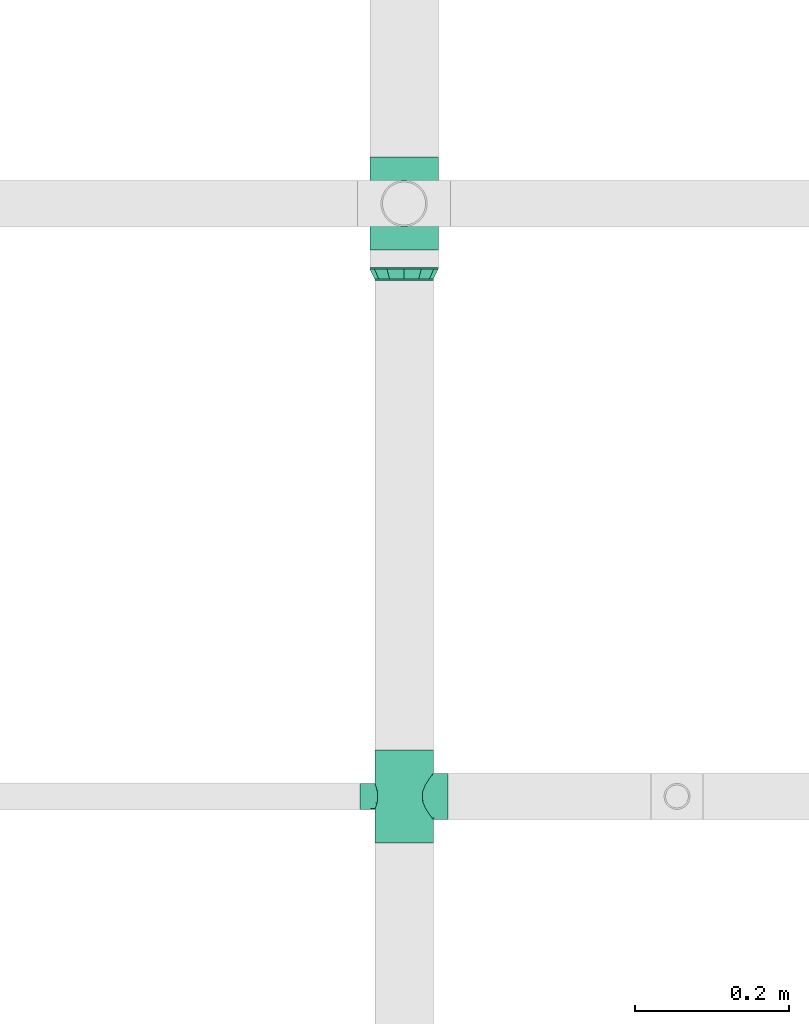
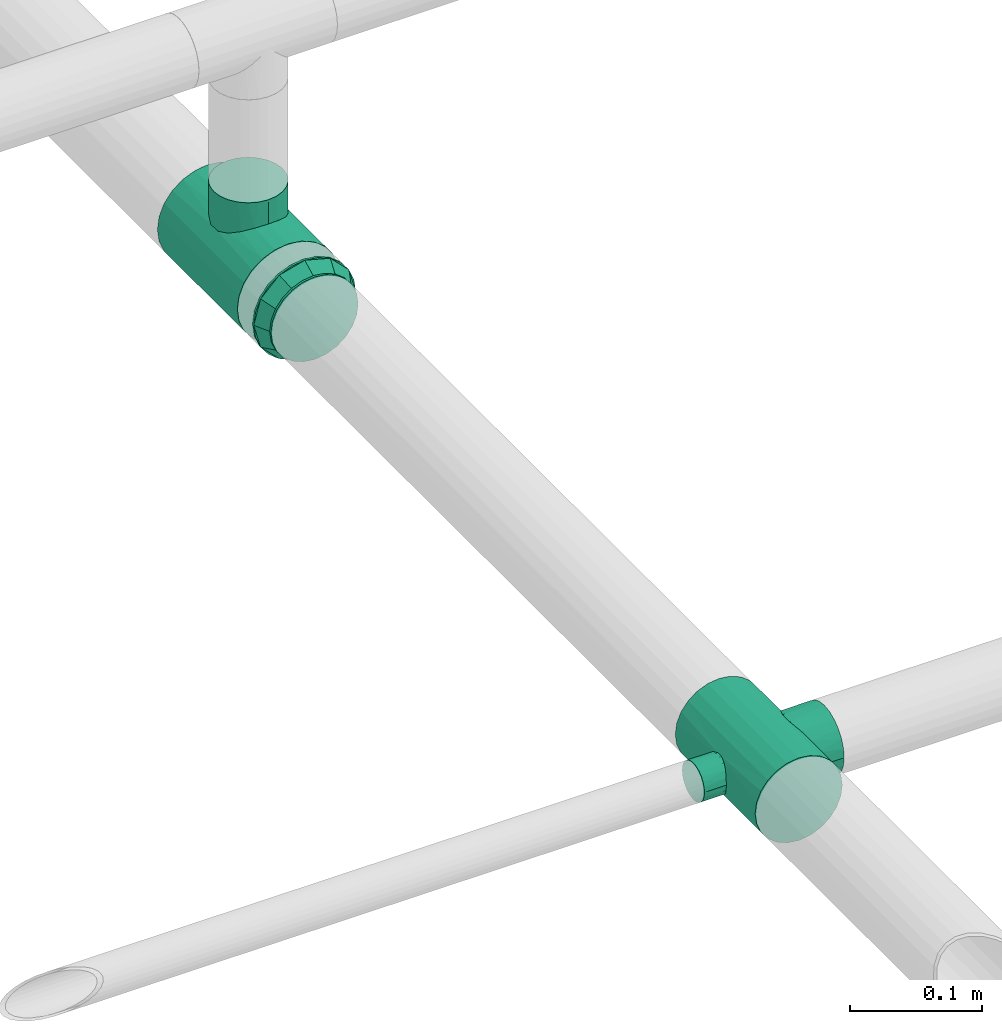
# One storey, part 39 of 45: 3 flow fittings.
"""IFC2X3 building model written with IfcOpenShell, lengths in millimetres."""

import ifcopenshell
import ifcopenshell.guid

model = None  # the IFC model being written
_history = None  # IfcOwnerHistory: only IFC2X3 demands one
_inside = {}  # id of a spatial element -> (the spatial element, [elements in it])
_under = {}  # id of a project, library or spatial element -> (it, [spatial elements below it])
_declared = {}  # id of a project -> (the project, [libraries it declares])
_typed = {}  # id of a type object -> (the type object, [elements of that type])
_made_of = {}  # id of a material, layer set ... -> (it, [elements and type objects made of it])


def new_model(schema):
    """Start an empty IFC model of exactly this schema.

    Asked for "IFC4X3", IfcOpenShell would pick the latest addendum, in which some entities
    have other attributes; the version numbers below select the first issue.
    IFC2X3 requires an IfcOwnerHistory on every rooted entity: one is made here for all.
    """
    global model, _history
    if schema == "IFC4X3":
        model = ifcopenshell.file(schema_version=(4, 3, 0, 0))
    else:
        model = ifcopenshell.file(schema=schema)
    _inside.clear()
    _under.clear()
    _declared.clear()
    _typed.clear()
    _made_of.clear()
    _history = None
    if model.schema == "IFC2X3":
        org = make("IfcOrganization", Name="unknown")
        user = make(
            "IfcPersonAndOrganization",
            ThePerson=make("IfcPerson", FamilyName="unknown"),
            TheOrganization=org,
        )
        app = make(
            "IfcApplication",
            ApplicationDeveloper=org,
            Version="unknown",
            ApplicationFullName="unknown",
            ApplicationIdentifier="unknown",
        )
        _history = make(
            "IfcOwnerHistory",
            OwningUser=user,
            OwningApplication=app,
            ChangeAction="ADDED",
            CreationDate=0,
        )
    return model


def make(cls, **values):
    """One entity of the class cls with the attributes given. An attribute that is None is left unset."""
    return model.create_entity(
        cls, **{name: value for name, value in values.items() if value is not None}
    )


def entity(cls, *values):
    """Any entity or typed value of the class cls, its attributes in the order of the schema. None: left unset."""
    e = model.create_entity(cls)
    for i, value in enumerate(values):
        if value is not None:
            e[i] = value
    return e


def rooted(cls, **values):
    """An entity with a GlobalId (a new one), such as an element, a storey or a relation."""
    return make(cls, GlobalId=ifcopenshell.guid.new(), OwnerHistory=_history, **values)


def si_unit(unit_type, name, prefix=None):
    """IfcSIUnit, for example si_unit("LENGTHUNIT", "METRE", prefix="MILLI")."""
    return make("IfcSIUnit", UnitType=unit_type, Prefix=prefix, Name=name)


def converted_unit(unit_type, name, factor, base, dimensions=None, offset=None):
    """IfcConversionBasedUnit, such as the inch: factor (a typed value) times the base unit."""
    return make(
        "IfcConversionBasedUnit"
        if offset is None
        else "IfcConversionBasedUnitWithOffset",
        ConversionOffset=offset,
        Dimensions=None
        if dimensions is None
        else entity("IfcDimensionalExponents", *dimensions),
        UnitType=unit_type,
        Name=name,
        ConversionFactor=make(
            "IfcMeasureWithUnit", ValueComponent=factor, UnitComponent=base
        ),
    )


def derived_unit(unit_type, elements):
    """IfcDerivedUnit: a product of units, each with its exponent."""
    return make(
        "IfcDerivedUnit",
        Elements=[
            make("IfcDerivedUnitElement", Unit=unit, Exponent=power)
            for unit, power in elements
        ],
        UnitType=unit_type,
    )


def assignment(units):
    """IfcUnitAssignment: the units of a project."""
    return None if units is None else make("IfcUnitAssignment", Units=units)


def point(xyz):
    """IfcCartesianPoint."""
    return None if xyz is None else make("IfcCartesianPoint", Coordinates=xyz)


def direction(xyz):
    """IfcDirection."""
    return None if xyz is None else make("IfcDirection", DirectionRatios=xyz)


def frame(location, z_axis=None, x_axis=None):
    """IfcAxis2Placement3D, a coordinate frame: its origin and axes. An axis left out is left unset."""
    return make(
        "IfcAxis2Placement3D",
        Location=point(location),
        Axis=direction(z_axis),
        RefDirection=direction(x_axis),
    )


def origin_with_axes():
    """The frame at (0, 0, 0) with the z axis (0, 0, 1) and the x axis (1, 0, 0) written out."""
    return frame((0.0, 0.0, 0.0), z_axis=(0.0, 0.0, 1.0), x_axis=(1.0, 0.0, 0.0))


def place(relative_to, where):
    """IfcLocalPlacement: puts the frame where relative to a parent placement (None: the world)."""
    return make(
        "IfcLocalPlacement", PlacementRelTo=relative_to, RelativePlacement=where
    )


def context(
    kind, dimensions, precision=None, world=None, true_north=None, identifier=None
):
    """IfcGeometricRepresentationContext, for example the 3D "Model" context."""
    return make(
        "IfcGeometricRepresentationContext",
        ContextIdentifier=identifier,
        ContextType=kind,
        CoordinateSpaceDimension=dimensions,
        Precision=precision,
        WorldCoordinateSystem=world,
        TrueNorth=true_north,
    )


def subcontext(parent, identifier, kind, view, scale=None):
    """IfcGeometricRepresentationSubContext, for example "Body" below "Model"."""
    return make(
        "IfcGeometricRepresentationSubContext",
        ContextIdentifier=identifier,
        ContextType=kind,
        ParentContext=parent,
        TargetScale=scale,
        TargetView=view,
    )


def project(units=None, contexts=None):
    """IfcProject with its units and contexts."""
    return rooted(
        "IfcProject",
        Name="project",
        RepresentationContexts=contexts,
        UnitsInContext=assignment(units),
    )


def spatial(cls, under=None, at=None, **own):
    """A site, building, storey or space (cls), placed at a placement, below another one or the project."""
    s = rooted(cls, ObjectPlacement=at, **own)
    if under is not None:
        _under.setdefault(under.id(), (under, []))[1].append(s)
    return s


def faces_of(points, faces, orient=None, outer=None):
    """IfcFace entities. A face is a list of loops; a loop is a list of indices into points, from 0.

    orient and outer hold one flag for each loop. By default every Orientation is true, the
    first loop of a face is its IfcFaceOuterBound and the others are IfcFaceBound.
    """
    made = []
    for i, loops in enumerate(faces):
        bounds = []
        for j, loop in enumerate(loops):
            is_outer = j == 0 if outer is None else outer[i][j]
            bounds.append(
                make(
                    "IfcFaceOuterBound" if is_outer else "IfcFaceBound",
                    Bound=make("IfcPolyLoop", Polygon=[points[k] for k in loop]),
                    Orientation=True if orient is None else orient[i][j],
                )
            )
        made.append(make("IfcFace", Bounds=bounds))
    return made


def open_shell(faces, orient=None, outer=None):
    """The faces of one IfcOpenShell. surface_model builds it on its shared points."""
    return ("IfcOpenShell", faces, orient, outer)


def surface_model(cls, points, shells):
    """IfcFaceBasedSurfaceModel or IfcShellBasedSurfaceModel (cls): surfaces that need not close."""
    shared = [point(p) for p in points]
    made = [make(c, CfsFaces=faces_of(shared, fs, o, b)) for c, fs, o, b in shells]
    if cls == "IfcFaceBasedSurfaceModel":
        return make(cls, FbsmFaces=made)
    return make(cls, SbsmBoundary=made)


def shape(context_of_items, identifier, shape_type, items):
    """IfcShapeRepresentation: the items that make up one representation, for example the "Body"."""
    return make(
        "IfcShapeRepresentation",
        ContextOfItems=context_of_items,
        RepresentationIdentifier=identifier,
        RepresentationType=shape_type,
        Items=items,
    )


def source(mapping_origin, context_of_items, identifier, shape_type, items):
    """IfcRepresentationMap: a shape defined once, which mapped items show again and again."""
    return make(
        "IfcRepresentationMap",
        MappingOrigin=mapping_origin,
        MappedRepresentation=shape(context_of_items, identifier, shape_type, items),
    )


def transform(
    local_origin,
    x_axis=None,
    y_axis=None,
    z_axis=None,
    scale=None,
    scale2=None,
    scale3=None,
    uniform=True,
):
    """IfcCartesianTransformationOperator3D, or its non-uniform kind. x_axis, y_axis, z_axis: its Axis1, 2, 3."""
    if uniform:
        return make(
            "IfcCartesianTransformationOperator3D",
            Axis1=direction(x_axis),
            Axis2=direction(y_axis),
            LocalOrigin=point(local_origin),
            Scale=scale,
            Axis3=direction(z_axis),
        )
    return make(
        "IfcCartesianTransformationOperator3DnonUniform",
        Axis1=direction(x_axis),
        Axis2=direction(y_axis),
        LocalOrigin=point(local_origin),
        Scale=scale,
        Axis3=direction(z_axis),
        Scale2=scale2,
        Scale3=scale3,
    )


def mapped(mapping_source, mapping_target):
    """IfcMappedItem: shows the shape of a source again, moved by a transform."""
    return make(
        "IfcMappedItem", MappingSource=mapping_source, MappingTarget=mapping_target
    )


def made_of(thing, what):
    """Note that an element or type object is made of a material, layer set ...; save() writes the relation."""
    if what is not None:
        _made_of.setdefault(what.id(), (what, []))[1].append(thing)
    return thing


def type_object(cls, material=None, **own):
    """A type object (cls), such as IfcWallType, which elements share."""
    return made_of(rooted(cls, **own), material)


def element(
    cls,
    number,
    at=None,
    inside=None,
    cuts=None,
    type_object=None,
    material=None,
    context=None,
    identifier="Body",
    shape_type=None,
    held_by="IfcProductDefinitionShape",
    body=None,
    shapes=None,
    **own,
):
    """One element of the class cls, such as IfcWall. Its Tag is "e" and its number.

    at: its placement. inside: the storey or other place that contains it. cuts: it is an
    opening in that element (IfcRelVoidsElement). A single representation is given by context,
    identifier, shape_type and body (its items); several are given by shapes. held_by: the class
    of the entity that holds the representations. save() writes the other relations.
    """
    e = rooted(cls, Tag="e%d" % number, ObjectPlacement=at, **own)
    if body is not None:
        shapes = [shape(context, identifier, shape_type, body)]
    if shapes is not None:
        e.Representation = make(held_by, Representations=shapes)
    if inside is not None:
        _inside.setdefault(inside.id(), (inside, []))[1].append(e)
    if cuts is not None:
        rooted(
            "IfcRelVoidsElement", RelatingBuildingElement=cuts, RelatedOpeningElement=e
        )
    if type_object is not None:
        _typed.setdefault(type_object.id(), (type_object, []))[1].append(e)
    return made_of(e, material)


def aggregate(whole, parts):
    """IfcRelAggregates: a whole, such as a stair, and the parts it consists of."""
    return rooted("IfcRelAggregates", RelatingObject=whole, RelatedObjects=parts)


def save(model, path):
    """Write the relations noted so far, then the file.

    IfcRelAggregates (storeys below a building ...), IfcRelContainedInSpatialStructure (elements
    in a storey), IfcRelDefinesByType, IfcRelAssociatesMaterial and IfcRelDeclares: one each for
    every whole, place, type object, material and project.
    """
    for whole, parts in _under.values():
        aggregate(whole, parts)
    for where, things in _inside.values():
        rooted(
            "IfcRelContainedInSpatialStructure",
            RelatedElements=things,
            RelatingStructure=where,
        )
    for kind, things in _typed.values():
        rooted("IfcRelDefinesByType", RelatedObjects=things, RelatingType=kind)
    for what, things in _made_of.values():
        rooted("IfcRelAssociatesMaterial", RelatedObjects=things, RelatingMaterial=what)
    for by, libraries in _declared.values():
        rooted("IfcRelDeclares", RelatingContext=by, RelatedDefinitions=libraries)
    model.write(path)


model = new_model("IFC2X3")

# Units and contexts
model_context = context("Model", 3, precision=0.01, world=frame((0.0, 4.29681676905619e-09, 0.0)), true_north=direction((4.01073788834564e-13, 1.0)))
plan_context = context("Plan", 3, precision=0.01, world=frame((0.0, 4.29681676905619e-09, 0.0)), true_north=direction((4.01073788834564e-13, 1.0)))
body_context = subcontext(model_context, "Body", "Model", "MODEL_VIEW")
ifc_project = project(units=[converted_unit("PLANEANGLEUNIT", "DEGREE", entity("IfcPositiveLengthMeasure", 0.0174532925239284), si_unit("PLANEANGLEUNIT", "RADIAN"), dimensions=[0, 0, 0, 0, 0, 0, 0]), si_unit("AREAUNIT", "SQUARE_METRE"), si_unit("LENGTHUNIT", "METRE", prefix="MILLI"), si_unit("MASSUNIT", "GRAM", prefix="KILO"), si_unit("POWERUNIT", "WATT"), si_unit("PRESSUREUNIT", "PASCAL", prefix="KILO"), si_unit("FORCEUNIT", "NEWTON", prefix="KILO"), si_unit("ELECTRICVOLTAGEUNIT", "VOLT"), si_unit("ELECTRICCURRENTUNIT", "AMPERE"), si_unit("THERMODYNAMICTEMPERATUREUNIT", "DEGREE_CELSIUS"), si_unit("TIMEUNIT", "SECOND"), si_unit("VOLUMEUNIT", "CUBIC_METRE"), derived_unit("LINEARVELOCITYUNIT", [(si_unit("LENGTHUNIT", "METRE"), 1), (si_unit("TIMEUNIT", "SECOND"), -1)]), derived_unit("VOLUMETRICFLOWRATEUNIT", [(si_unit("VOLUMEUNIT", "CUBIC_METRE"), 1), (si_unit("TIMEUNIT", "SECOND"), -1)]), derived_unit("THERMALTRANSMITTANCEUNIT", [(si_unit("POWERUNIT", "WATT"), 1), (si_unit("THERMODYNAMICTEMPERATUREUNIT", "KELVIN"), -1), (si_unit("AREAUNIT", "SQUARE_METRE"), -1)]), derived_unit("SOUNDPRESSUREUNIT", [(si_unit("PRESSUREUNIT", "PASCAL"), 1)])], contexts=[model_context, plan_context])

# Site, building, storey
site_placement = place(None, frame((0.0, -4.29681676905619e-09, 0.0), z_axis=(0.0, 0.0, 1.0), x_axis=(1.0, 0.0, 0.0)))
site = spatial("IfcSite", under=ifc_project, at=site_placement, CompositionType="ELEMENT")
building_placement = place(site_placement, frame((0.0, 4.29681676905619e-09, 0.0), z_axis=(0.0, 0.0, 1.0), x_axis=(1.0, 0.0, 0.0)))
building = spatial("IfcBuilding", under=site, at=building_placement, Name="mc-building", CompositionType="ELEMENT")
storey_placement = place(building_placement, frame((0.0, 0.0, 210200.0), z_axis=(0.0, 0.0, 1.0), x_axis=(1.0, 0.0, 0.0)))
storey = spatial("IfcBuildingStorey", under=building, at=storey_placement, Name="Nivå F - 0,7 m", CompositionType="ELEMENT", Elevation=210200.0)

# Flow fittings
pipe_fitting_type_1 = type_object("IfcPipeFittingType", Name="magi_pipe_fe_reducer_centric_short_001", PredefinedType="TRANSITION")
shared_shape_1 = source(origin_with_axes(), body_context, "Body", "SurfaceModel", [
    surface_model("IfcShellBasedSurfaceModel", [(0.0, 38.53813, 22.25), (0.0, 0.0, -44.5), (0.0, -44.5, 0.0), (0.0, -22.25, -38.53813), (0.0, 22.25, -38.53813), (14.8, 9.86101, -36.80177), (14.8, 19.05, -32.99557), (14.8, 26.94077, -26.94077), (14.8, -19.05, -32.99557), (14.8, 36.80177, -9.86101), (14.8, 32.99557, -19.05), (14.8, -38.1, 0.0), (14.8, 0.0, -38.1), (14.8, -9.86101, -36.80177), (14.8, -26.94077, -26.94077), (14.8, -32.99557, -19.05), (14.8, -36.80177, -9.86101), (14.8, 38.1, 0.0), (14.8, 36.80177, 9.86101), (14.8, 32.99557, 19.05), (14.8, 26.94077, 26.94077), (14.8, 19.05, 32.99557), (14.8, 9.86101, 36.80177), (14.8, 0.0, 38.1), (14.8, -32.99557, 19.05), (14.8, -36.80177, 9.86101), (14.8, -9.86101, 36.80177), (14.8, -19.05, 32.99557), (14.8, -26.94077, 26.94077), (12.8, 0.0, 38.1), (12.8, 9.86101, 36.80177), (12.8, 19.05, 32.99557), (12.8, -32.99557, -19.05), (12.8, 26.94077, 26.94077), (12.8, 32.99557, 19.05), (12.8, 36.80177, 9.86101), (12.8, -38.1, 0.0), (12.8, -19.05, 32.99557), (12.8, -32.99557, 19.05), (12.8, -26.94077, 26.94077), (12.8, -9.86101, 36.80177), (12.8, -36.80177, 9.86101), (12.8, -19.05, -32.99557), (12.8, 36.80177, -9.86101), (12.8, 9.86101, -36.80177), (12.8, 26.94077, -26.94077), (12.8, 32.99557, -19.05), (12.8, 19.05, -32.99557), (12.8, 0.0, -38.1), (12.8, -26.94077, -26.94077), (12.8, -36.80177, -9.86101), (12.8, -9.86101, -36.80177), (12.8, 38.1, 0.0), (-2.0, 0.0, 44.5), (-2.0, 11.51745, 42.9837), (-2.0, 22.25, 38.53813), (-2.0, 31.46625, 31.46625), (-2.0, 38.53813, 22.25), (-2.0, 42.9837, 11.51745), (-2.0, -42.9837, 11.51745), (-2.0, -11.51745, 42.9837), (-2.0, -31.46625, 31.46625), (-2.0, -22.25, 38.53813), (-2.0, -38.53813, 22.25), (-2.0, -42.9837, -11.51745), (-2.0, -44.5, 0.0), (-2.0, 11.51745, -42.9837), (-2.0, 44.5, 0.0), (-2.0, 42.9837, -11.51745), (-2.0, 38.53813, -22.25), (-2.0, 31.46625, -31.46625), (-2.0, 22.25, -38.53813), (-2.0, 0.0, -44.5), (-2.0, -31.46625, -31.46625), (-2.0, -38.53813, -22.25), (-2.0, -22.25, -38.53813), (-2.0, -11.51745, -42.9837), (0.0, -42.9837, -11.51745), (0.0, 11.51745, -42.9837), (0.0, 42.9837, -11.51745), (0.0, 31.46625, -31.46625), (0.0, 44.5, 0.0), (0.0, 38.53813, -22.25), (0.0, -11.51745, -42.9837), (0.0, -31.46625, -31.46625), (0.0, -38.53813, -22.25), (0.0, 42.9837, 11.51745), (0.0, 31.46625, 31.46625), (0.0, -42.9837, 11.51745), (0.0, 22.25, 38.53813), (0.0, 11.51745, 42.9837), (0.0, 0.0, 44.5), (0.0, -31.46625, 31.46625), (0.0, -38.53813, 22.25), (0.0, -11.51745, 42.9837), (0.0, -22.25, 38.53813), (12.8, 26.02278, -26.02278), (0.0, 30.39407, -30.39407), (0.0, 41.51906, -11.125), (12.8, 35.54778, -9.525), (0.0, -40.63343, -14.43025), (12.8, -35.54778, -9.525), (0.0, 11.125, -41.51906), (12.8, 9.525, -35.54778), (0.0, -30.39407, -30.39407), (12.8, -26.02278, -26.02278), (0.0, -11.125, -41.51906), (12.8, -9.525, -35.54778), (12.8, -26.02278, 26.02278), (0.0, -30.39407, 30.39407), (0.0, -41.51906, 11.125), (12.8, -35.54778, 9.525), (0.0, 40.63343, 14.43025), (12.8, 35.54778, 9.525), (0.0, -11.125, 41.51906), (12.8, -9.525, 35.54778), (0.0, 30.39407, 30.39407), (12.8, 26.02278, 26.02278), (0.0, 11.125, 41.51906), (12.8, 9.525, 35.54778)], [open_shell([[[0, 1, 2]], [[2, 1, 3]], [[0, 4, 1]], [[5, 6, 7]], [[8, 5, 7]], [[8, 7, 9]], [[9, 7, 10]], [[8, 9, 11]], [[12, 8, 13]], [[12, 5, 8]], [[14, 11, 15]], [[11, 14, 8]], [[11, 16, 15]], [[9, 17, 18]], [[18, 19, 20]], [[18, 20, 21]], [[21, 22, 23]], [[21, 23, 18]], [[23, 11, 9]], [[11, 24, 25]], [[24, 11, 26]], [[24, 27, 28]], [[27, 24, 26]], [[11, 23, 26]], [[23, 9, 18]], [[29, 30, 31]], [[32, 29, 31]], [[33, 34, 35]], [[31, 33, 32]], [[36, 29, 32]], [[37, 38, 39]], [[37, 40, 29]], [[38, 36, 41]], [[36, 38, 37]], [[29, 36, 37]], [[35, 42, 33]], [[35, 43, 44]], [[45, 43, 46]], [[47, 44, 43]], [[47, 43, 45]], [[35, 44, 48]], [[49, 32, 33]], [[50, 36, 32]], [[42, 48, 51]], [[49, 33, 42]], [[35, 48, 42]], [[35, 52, 43]], [[50, 16, 36]], [[32, 15, 50]], [[8, 49, 42]], [[32, 49, 14]], [[13, 42, 51]], [[50, 15, 16]], [[16, 11, 36]], [[13, 8, 42]], [[14, 49, 8]], [[14, 15, 32]], [[12, 13, 51]], [[51, 48, 12]], [[44, 5, 48]], [[47, 6, 44]], [[10, 45, 46]], [[47, 45, 7]], [[9, 46, 43]], [[47, 7, 6]], [[6, 5, 44]], [[17, 9, 43]], [[10, 46, 9]], [[10, 7, 45]], [[52, 17, 43]], [[48, 5, 12]], [[35, 18, 52]], [[34, 19, 35]], [[21, 33, 31]], [[34, 33, 20]], [[22, 31, 30]], [[35, 19, 18]], [[18, 17, 52]], [[22, 21, 31]], [[20, 33, 21]], [[20, 19, 34]], [[23, 22, 30]], [[30, 29, 23]], [[40, 26, 29]], [[37, 27, 40]], [[24, 39, 38]], [[37, 39, 28]], [[25, 38, 41]], [[37, 28, 27]], [[27, 26, 40]], [[11, 25, 41]], [[24, 38, 25]], [[24, 28, 39]], [[36, 11, 41]], [[29, 26, 23]], [[53, 54, 55]], [[53, 55, 56]], [[56, 57, 58]], [[53, 56, 59]], [[59, 56, 58]], [[60, 61, 62]], [[60, 53, 61]], [[61, 59, 63]], [[53, 59, 61]], [[59, 64, 65]], [[59, 58, 64]], [[66, 67, 68]], [[66, 68, 69]], [[70, 71, 66]], [[70, 66, 69]], [[67, 66, 72]], [[64, 73, 74]], [[73, 64, 75]], [[75, 72, 76]], [[72, 75, 64]], [[64, 67, 72]], [[67, 64, 58]], [[4, 77, 78]], [[79, 4, 80]], [[79, 81, 4]], [[79, 80, 82]], [[77, 4, 81]], [[1, 3, 83]], [[3, 1, 77]], [[84, 77, 85]], [[77, 84, 3]], [[1, 78, 77]], [[81, 86, 77]], [[86, 0, 87]], [[88, 86, 87]], [[89, 90, 91]], [[89, 91, 87]], [[88, 87, 91]], [[88, 92, 93]], [[2, 77, 88]], [[92, 94, 95]], [[92, 88, 91]], [[94, 92, 91]], [[88, 77, 86]], [[64, 77, 65]], [[74, 85, 64]], [[3, 73, 75]], [[74, 73, 84]], [[83, 75, 76]], [[64, 85, 77]], [[77, 2, 65]], [[83, 3, 75]], [[84, 73, 3]], [[84, 85, 74]], [[1, 83, 76]], [[76, 72, 1]], [[66, 78, 72]], [[71, 4, 66]], [[82, 70, 69]], [[71, 70, 80]], [[79, 69, 68]], [[71, 80, 4]], [[4, 78, 66]], [[81, 79, 68]], [[82, 69, 79]], [[82, 80, 70]], [[67, 81, 68]], [[72, 78, 1]], [[58, 86, 67]], [[57, 0, 58]], [[89, 56, 55]], [[57, 56, 87]], [[90, 55, 54]], [[58, 0, 86]], [[86, 81, 67]], [[90, 89, 55]], [[87, 56, 89]], [[87, 0, 57]], [[91, 90, 54]], [[54, 53, 91]], [[60, 94, 53]], [[62, 95, 60]], [[93, 61, 63]], [[62, 61, 92]], [[88, 63, 59]], [[62, 92, 95]], [[95, 94, 60]], [[2, 88, 59]], [[93, 63, 88]], [[93, 92, 61]], [[65, 2, 59]], [[53, 94, 91]], [[52, 29, 37]], [[52, 37, 38]], [[31, 52, 34]], [[52, 31, 29]], [[38, 42, 52]], [[32, 42, 38]], [[42, 48, 52]], [[52, 47, 46]], [[52, 48, 47]], [[36, 32, 38]], [[91, 89, 0]], [[91, 0, 93]], [[91, 93, 95]], [[93, 0, 2]], [[4, 0, 82]], [[3, 85, 2]], [[0, 81, 82]], [[82, 46, 96]], [[47, 97, 96]], [[97, 47, 4]], [[98, 99, 46]], [[2, 100, 101]], [[81, 52, 99]], [[102, 4, 103]], [[96, 97, 82]], [[48, 1, 102]], [[100, 32, 101]], [[46, 82, 98]], [[48, 102, 103]], [[81, 99, 98]], [[4, 47, 103]], [[101, 36, 2]], [[104, 105, 32]], [[3, 105, 104]], [[106, 1, 107]], [[42, 106, 107]], [[3, 42, 105]], [[85, 32, 100]], [[1, 48, 107]], [[42, 3, 106]], [[32, 85, 104]], [[93, 38, 108]], [[37, 109, 108]], [[109, 37, 95]], [[110, 111, 38]], [[81, 112, 113]], [[2, 36, 111]], [[114, 95, 115]], [[108, 109, 93]], [[29, 91, 114]], [[112, 34, 113]], [[38, 93, 110]], [[29, 114, 115]], [[2, 111, 110]], [[95, 37, 115]], [[113, 52, 81]], [[116, 117, 34]], [[89, 117, 116]], [[118, 91, 119]], [[31, 118, 119]], [[89, 31, 117]], [[0, 34, 112]], [[91, 29, 119]], [[31, 89, 118]], [[34, 0, 116]]])]),
])
flow_fitting_1_placement = place(storey_placement, frame((324119.17326, 462314.88184, 2938.0), z_axis=(0.0, 0.0, 1.0), x_axis=(0.0, -1.0, 0.0)))
element("IfcFlowFitting", 1, at=flow_fitting_1_placement, inside=storey, type_object=pipe_fitting_type_1, Name="magi_pipe_fe_reducer_centric_short_001", context=body_context, shape_type="MappedRepresentation", body=[
    mapped(shared_shape_1, transform((0.0, 0.0, 0.0), scale=1.0)),
])
pipe_fitting_type_2 = type_object("IfcPipeFittingType", Name="magi_pipe_fe_tee_centric_90_001", PredefinedType="JUNCTION")
shared_shape_2 = source(origin_with_axes(), body_context, "Body", "SurfaceModel", [
    surface_model("IfcShellBasedSurfaceModel", [(-60.4, 11.51745, -42.9837), (-60.4, 0.0, -44.5), (-60.4, 31.46625, -31.46625), (-60.4, 22.25, -38.53813), (-60.4, 38.53813, -22.25), (-60.4, -31.46625, -31.46625), (-60.4, 44.5, 0.0), (-60.4, -22.25, -38.53813), (-60.4, -11.51745, -42.9837), (-60.4, -42.9837, -11.51745), (-60.4, -44.5, 0.0), (-60.4, -38.53813, -22.25), (-60.4, 22.25, 38.53813), (-60.4, 42.9837, -11.51745), (-60.4, 42.9837, 11.51745), (-60.4, 38.53813, 22.25), (-60.4, 31.46625, 31.46625), (-60.4, -22.25, 38.53813), (-60.4, 11.51745, 42.9837), (-60.4, 0.0, 44.5), (-60.4, -31.46625, 31.46625), (-60.4, -38.53813, 22.25), (-60.4, -42.9837, 11.51745), (-60.4, -11.51745, 42.9837), (60.4, 31.46625, -31.46625), (60.4, 0.0, -44.5), (60.4, 11.51745, -42.9837), (60.4, 22.25, -38.53813), (60.4, -31.46625, -31.46625), (60.4, 38.53813, -22.25), (60.4, 44.5, 0.0), (60.4, -11.51745, -42.9837), (60.4, -22.25, -38.53813), (60.4, -38.53813, -22.25), (60.4, -44.5, 0.0), (60.4, -42.9837, -11.51745), (60.4, -22.25, 38.53813), (60.4, 42.9837, -11.51745), (60.4, 31.46625, 31.46625), (60.4, 42.9837, 11.51745), (60.4, 38.53813, 22.25), (60.4, 22.25, 38.53813), (60.4, 0.0, 44.5), (60.4, 11.51745, 42.9837), (60.4, -38.53813, 22.25), (60.4, -31.46625, 31.46625), (60.4, -42.9837, 11.51745), (60.4, -11.51745, 42.9837), (28.27565, -43.21715, 10.6079), (30.2, -44.5, 0.0), (60.4, -40.76092, 16.88372), (15.23628, -36.06043, 26.07481), (23.01276, -39.97246, 19.5564), (5.41096, -33.12836, 29.7113), (-5.42014, -33.12986, 29.70963), (-23.0191, -39.9761, 19.54894), (-60.4, -40.76092, 16.88372), (-30.2, -44.5, 0.0), (-28.27672, -43.21786, 10.60504), (-15.23895, -36.06155, 26.07325), (5.41096, -33.12836, -29.7113), (15.23628, -36.06043, -26.07481), (-28.27672, -43.21786, -10.60504), (-60.4, -40.76092, -16.88372), (-23.0191, -39.9761, -19.54894), (23.01276, -39.97246, -19.5564), (-5.42014, -33.12986, -29.70963), (28.27565, -43.21715, -10.6079), (60.4, -40.76092, -16.88372), (-15.23895, -36.06155, -26.07325), (-21.35462, -66.75, -21.35462), (0.0, -66.75, -30.2), (7.81634, -66.75, -29.17096), (15.1, -66.75, -26.15397), (-30.2, -66.75, 0.0), (26.15397, -66.75, -15.1), (21.35462, -66.75, -21.35462), (26.15397, -66.75, 15.1), (-7.81634, -66.75, -29.17096), (-15.1, -66.75, -26.15397), (-29.17096, -66.75, -7.81634), (-26.15397, -66.75, -15.1), (29.17096, -66.75, -7.81634), (30.2, -66.75, 0.0), (29.17096, -66.75, 7.81634), (7.81634, -66.75, 29.17096), (15.1, -66.75, 26.15397), (21.35462, -66.75, 21.35462), (-21.35462, -66.75, 21.35462), (-26.15397, -66.75, 15.1), (-29.17096, -66.75, 7.81634), (-15.1, -66.75, 26.15397), (0.0, -66.75, 30.2), (-7.81634, -66.75, 29.17096), (-29.23836, -43.85893, 5.30252), (29.23783, -43.85858, 5.30395), (-0.00459, -33.12911, 29.71047), (29.23783, -43.85858, -5.30395), (-29.23836, -43.85893, -5.30252), (-0.00459, -33.12911, -29.71047)], [open_shell([[[0, 1, 2]], [[3, 0, 2]], [[4, 2, 5]], [[1, 5, 2]], [[5, 6, 4]], [[7, 5, 8]], [[5, 1, 8]], [[9, 10, 11]], [[5, 11, 10]], [[10, 12, 5]], [[6, 13, 4]], [[14, 6, 12]], [[15, 14, 16]], [[12, 10, 17]], [[16, 14, 12]], [[18, 12, 19]], [[20, 17, 21]], [[10, 22, 21]], [[23, 19, 17]], [[21, 17, 10]], [[17, 19, 12]], [[6, 5, 12]], [[24, 25, 26]], [[24, 26, 27]], [[28, 24, 29]], [[24, 28, 25]], [[29, 30, 28]], [[31, 28, 32]], [[31, 25, 28]], [[33, 34, 35]], [[34, 33, 28]], [[28, 36, 34]], [[29, 37, 30]], [[38, 30, 39]], [[38, 39, 40]], [[36, 28, 41]], [[41, 30, 38]], [[42, 41, 43]], [[44, 36, 45]], [[36, 44, 46]], [[41, 47, 36]], [[46, 34, 36]], [[42, 47, 41]], [[41, 28, 30]], [[34, 46, 48]], [[48, 49, 34]], [[50, 48, 46]], [[44, 45, 51]], [[51, 52, 44]], [[53, 51, 45]], [[54, 53, 17]], [[44, 52, 50]], [[55, 21, 56]], [[57, 58, 10]], [[22, 10, 58]], [[55, 56, 58]], [[59, 54, 20]], [[59, 21, 55]], [[21, 59, 20]], [[56, 22, 58]], [[20, 54, 17]], [[48, 50, 52]], [[53, 45, 36]], [[19, 47, 42]], [[23, 36, 47]], [[18, 42, 43]], [[40, 39, 14]], [[16, 41, 38]], [[15, 38, 40]], [[43, 41, 12]], [[6, 39, 30]], [[17, 36, 23]], [[23, 47, 19]], [[18, 19, 42]], [[43, 12, 18]], [[12, 41, 16]], [[15, 16, 38]], [[14, 15, 40]], [[39, 6, 14]], [[36, 17, 53]], [[6, 30, 37]], [[4, 29, 24]], [[4, 37, 29]], [[8, 25, 31]], [[0, 27, 26]], [[1, 26, 25]], [[27, 3, 24]], [[7, 31, 32]], [[4, 24, 2]], [[6, 37, 13]], [[13, 37, 4]], [[24, 3, 2]], [[3, 27, 0]], [[1, 0, 26]], [[8, 1, 25]], [[31, 7, 8]], [[32, 60, 7]], [[28, 33, 61]], [[62, 63, 64]], [[61, 60, 28]], [[33, 65, 61]], [[66, 7, 60]], [[35, 34, 67]], [[65, 68, 67]], [[49, 67, 34]], [[67, 68, 35]], [[66, 69, 5]], [[65, 33, 68]], [[11, 5, 69]], [[69, 64, 11]], [[5, 7, 66]], [[62, 9, 63]], [[62, 10, 9]], [[10, 62, 57]], [[64, 63, 11]], [[60, 32, 28]], [[70, 71, 72]], [[73, 70, 72]], [[74, 73, 75]], [[75, 73, 76]], [[77, 74, 75]], [[78, 70, 79]], [[78, 71, 70]], [[70, 80, 81]], [[80, 70, 74]], [[73, 74, 70]], [[75, 82, 83]], [[83, 84, 77]], [[85, 74, 77]], [[86, 85, 77]], [[86, 77, 87]], [[74, 85, 88]], [[74, 89, 90]], [[88, 89, 74]], [[91, 92, 93]], [[92, 91, 88]], [[85, 92, 88]], [[77, 75, 83]], [[90, 94, 74]], [[55, 89, 88]], [[95, 48, 84]], [[90, 89, 58]], [[88, 91, 59]], [[94, 57, 74]], [[58, 89, 55]], [[59, 93, 54]], [[59, 55, 88]], [[92, 53, 96]], [[59, 91, 93]], [[92, 54, 93]], [[51, 85, 86]], [[90, 58, 94]], [[87, 51, 86]], [[48, 77, 84]], [[87, 77, 52]], [[53, 92, 85]], [[85, 51, 53]], [[96, 54, 92]], [[51, 87, 52]], [[52, 77, 48]], [[83, 95, 84]], [[95, 83, 49]], [[82, 97, 83]], [[65, 75, 76]], [[98, 62, 80]], [[82, 75, 67]], [[76, 73, 61]], [[97, 49, 83]], [[67, 75, 65]], [[61, 72, 60]], [[61, 65, 76]], [[71, 66, 99]], [[61, 73, 72]], [[71, 60, 72]], [[79, 69, 78]], [[82, 67, 97]], [[70, 69, 79]], [[62, 81, 80]], [[64, 70, 81]], [[66, 71, 78]], [[78, 69, 66]], [[99, 60, 71]], [[69, 70, 64]], [[64, 81, 62]], [[74, 98, 80]], [[98, 74, 57]]])]),
])
flow_fitting_2_placement = place(storey_placement, frame((324119.17326, 462400.28184, 2938.0), z_axis=(-1.0, 0.0, 0.0), x_axis=(0.0, 1.0, 0.0)))
element("IfcFlowFitting", 2, at=flow_fitting_2_placement, inside=storey, type_object=pipe_fitting_type_2, Name="magi_pipe_fe_tee_centric_90_001", context=body_context, shape_type="MappedRepresentation", body=[
    mapped(shared_shape_2, transform((0.0, 0.0, 0.0), scale=1.0)),
])
pipe_fitting_type_3 = type_object("IfcPipeFittingType", Name="magi_pipe_fe_cross_centric_90_001", PredefinedType="JUNCTION")
shared_shape_3 = source(origin_with_axes(), body_context, "Body", "SurfaceModel", [
    surface_model("IfcShellBasedSurfaceModel", [(-60.4, 9.86101, -36.80177), (-60.4, 0.0, -38.1), (-60.4, 36.80177, -9.86101), (-60.4, 19.05, -32.99557), (-60.4, 32.99557, -19.05), (-60.4, 26.94077, -26.94077), (-60.4, -38.1, 0.0), (-60.4, -19.05, -32.99557), (-60.4, -26.94077, -26.94077), (-60.4, -9.86101, -36.80177), (-60.4, -32.99557, -19.05), (-60.4, -36.80177, -9.86101), (-60.4, 38.1, 0.0), (-60.4, 32.99557, 19.05), (-60.4, 36.80177, 9.86101), (-60.4, -36.80177, 9.86101), (-60.4, 19.05, 32.99557), (-60.4, 26.94077, 26.94077), (-60.4, 9.86101, 36.80177), (-60.4, 0.0, 38.1), (-60.4, -26.94077, 26.94077), (-60.4, -32.99557, 19.05), (-60.4, -9.86101, 36.80177), (-60.4, -19.05, 32.99557), (60.4, 0.0, -38.1), (60.4, 9.86101, -36.80177), (60.4, 19.05, -32.99557), (60.4, 26.94077, -26.94077), (60.4, 32.99557, -19.05), (60.4, 36.80177, -9.86101), (60.4, -38.1, 0.0), (60.4, -9.86101, -36.80177), (60.4, -26.94077, -26.94077), (60.4, -19.05, -32.99557), (60.4, -32.99557, -19.05), (60.4, -36.80177, -9.86101), (60.4, 36.80177, 9.86101), (60.4, 32.99557, 19.05), (60.4, 19.05, 32.99557), (60.4, 0.0, 38.1), (60.4, 26.94077, 26.94077), (60.4, 9.86101, 36.80177), (60.4, -26.94077, 26.94077), (60.4, -32.99557, 19.05), (60.4, -36.80177, 9.86101), (60.4, -19.05, 32.99557), (60.4, -9.86101, 36.80177), (60.4, 38.1, 0.0), (30.2, -38.1, 0.0), (28.21297, -36.54506, 10.7735), (15.23524, -27.77917, 26.07542), (22.90358, -32.62122, 19.68415), (5.49864, -23.87059, 29.6952), (-30.2, -38.1, 0.0), (-28.21409, -36.54593, 10.77057), (-15.2375, -27.78041, 26.0741), (-5.50829, -23.87281, 29.69341), (22.90358, -32.62122, -19.68415), (15.23524, -27.77917, -26.07542), (-5.50829, -23.87281, -29.69341), (-15.2375, -27.78041, -26.0741), (-28.21409, -36.54593, -10.77057), (5.49864, -23.87059, -29.6952), (-21.35462, -57.15, -21.35462), (0.0, -57.15, -30.2), (7.81634, -57.15, -29.17096), (15.1, -57.15, -26.15397), (-30.2, -57.15, 0.0), (26.15397, -57.15, -15.1), (21.35462, -57.15, -21.35462), (26.15397, -57.15, 15.1), (-7.81634, -57.15, -29.17096), (-15.1, -57.15, -26.15397), (-29.17096, -57.15, -7.81634), (-26.15397, -57.15, -15.1), (29.17096, -57.15, -7.81634), (30.2, -57.15, 0.0), (29.17096, -57.15, 7.81634), (7.81634, -57.15, 29.17096), (15.1, -57.15, 26.15397), (21.35462, -57.15, 21.35462), (-21.35462, -57.15, 21.35462), (-26.15397, -57.15, 15.1), (-29.17096, -57.15, 7.81634), (-15.1, -57.15, 26.15397), (0.0, -57.15, 30.2), (-7.81634, -57.15, 29.17096), (-29.20704, -37.32296, 5.38529), (-22.9083, -32.62453, 19.67866), (29.20648, -37.32253, 5.38675), (-0.00482, -23.8717, 29.69431), (29.20648, -37.32253, -5.38675), (-29.20704, -37.32296, -5.38529), (28.21297, -36.54506, -10.7735), (-0.00482, -23.8717, -29.69431), (-22.9083, -32.62453, -19.67866), (2.97221, 34.27585, 16.63658), (60.4, 37.45089, 4.9305), (16.9, 38.1, 0.0), (15.8612, 37.65073, 5.83372), (12.9317, 36.51341, 10.88031), (8.4904, 35.18646, 14.61243), (-2.96752, 34.27545, 16.63742), (-16.9, 38.1, 0.0), (-60.4, 37.45089, 4.9305), (-15.86072, 37.65053, 5.83504), (-8.48894, 35.18611, 14.61328), (-12.92726, 36.51183, 10.88559), (60.4, 37.45089, -4.9305), (15.8612, 37.65073, -5.83372), (12.9317, 36.51341, -10.88031), (8.4904, 35.18646, -14.61243), (-2.96752, 34.27545, -16.63742), (2.97221, 34.27585, -16.63658), (-12.92726, 36.51183, -10.88559), (-8.48894, 35.18611, -14.61328), (-15.86072, 37.65053, -5.83504), (-60.4, 37.45089, -4.9305), (-4.37404, 57.15, -16.32415), (16.9, 57.15, 0.0), (0.0, 57.15, -16.9), (-14.63583, 57.15, -8.45), (-8.45, 57.15, -14.63583), (-16.32415, 57.15, -4.37404), (-11.9501, 57.15, -11.9501), (-8.45, 57.15, 14.63583), (8.45, 57.15, -14.63583), (4.37404, 57.15, -16.32415), (11.9501, 57.15, -11.9501), (14.63583, 57.15, -8.45), (16.32415, 57.15, -4.37404), (-16.32415, 57.15, 4.37404), (-14.63583, 57.15, 8.45), (16.32415, 57.15, 4.37404), (-11.9501, 57.15, 11.9501), (0.0, 57.15, 16.9), (-4.37404, 57.15, 16.32415), (11.9501, 57.15, 11.9501), (14.63583, 57.15, 8.45), (8.45, 57.15, 14.63583), (4.37404, 57.15, 16.32415), (-16.9, 57.15, 0.0), (16.3806, 37.87537, 2.91686), (5.7313, 34.73116, 15.62451), (0.00235, 34.27565, 16.637), (-5.72823, 34.73078, 15.62535), (-16.38036, 37.87526, 2.91752), (-16.38036, 37.87526, -2.91752), (-5.72823, 34.73078, -15.62535), (0.00235, 34.27565, -16.637), (5.7313, 34.73116, -15.62451), (16.3806, 37.87537, -2.91686)], [open_shell([[[0, 1, 2]], [[3, 0, 2]], [[2, 4, 5]], [[3, 2, 5]], [[6, 2, 1]], [[7, 8, 9]], [[8, 1, 9]], [[10, 11, 8]], [[6, 8, 11]], [[8, 6, 1]], [[6, 12, 2]], [[13, 14, 12]], [[15, 13, 6]], [[16, 13, 15]], [[17, 13, 16]], [[18, 16, 19]], [[20, 19, 21]], [[16, 15, 21]], [[22, 19, 23]], [[20, 23, 19]], [[21, 19, 16]], [[12, 6, 13]], [[24, 25, 26]], [[24, 26, 27]], [[27, 28, 29]], [[24, 27, 30]], [[30, 27, 29]], [[31, 32, 33]], [[31, 24, 32]], [[34, 30, 35]], [[30, 34, 32]], [[24, 30, 32]], [[29, 36, 30]], [[36, 37, 30]], [[30, 37, 38]], [[38, 39, 30]], [[38, 37, 40]], [[39, 38, 41]], [[30, 42, 43]], [[44, 30, 43]], [[45, 39, 46]], [[45, 42, 30]], [[30, 39, 45]], [[36, 29, 47]], [[30, 44, 48]], [[44, 43, 49]], [[50, 51, 42]], [[52, 50, 42]], [[43, 51, 49]], [[53, 54, 15]], [[55, 56, 20]], [[52, 23, 56]], [[41, 38, 16]], [[26, 3, 27]], [[32, 57, 58]], [[59, 60, 8]], [[61, 53, 11]], [[61, 11, 10]], [[11, 53, 6]], [[62, 59, 7]], [[63, 64, 65]], [[66, 63, 65]], [[67, 66, 68]], [[68, 66, 69]], [[70, 67, 68]], [[71, 63, 72]], [[71, 64, 63]], [[63, 73, 74]], [[73, 63, 67]], [[66, 67, 63]], [[68, 75, 76]], [[76, 77, 70]], [[78, 67, 70]], [[79, 78, 70]], [[79, 70, 80]], [[67, 78, 81]], [[67, 82, 83]], [[81, 82, 67]], [[84, 85, 86]], [[85, 84, 81]], [[78, 85, 81]], [[70, 68, 76]], [[83, 87, 67]], [[88, 82, 81]], [[89, 49, 77]], [[83, 82, 54]], [[81, 84, 55]], [[87, 53, 67]], [[54, 82, 88]], [[55, 86, 56]], [[55, 88, 81]], [[85, 52, 90]], [[55, 84, 86]], [[85, 56, 86]], [[50, 78, 79]], [[83, 54, 87]], [[80, 50, 79]], [[49, 70, 77]], [[80, 70, 51]], [[52, 85, 78]], [[78, 50, 52]], [[90, 56, 85]], [[50, 80, 51]], [[51, 70, 49]], [[76, 89, 77]], [[89, 76, 48]], [[75, 91, 76]], [[57, 68, 69]], [[92, 61, 73]], [[75, 68, 93]], [[69, 66, 58]], [[91, 48, 76]], [[93, 68, 57]], [[58, 65, 62]], [[58, 57, 69]], [[64, 59, 94]], [[58, 66, 65]], [[64, 62, 65]], [[60, 71, 72]], [[75, 93, 91]], [[63, 60, 72]], [[61, 74, 73]], [[63, 74, 95]], [[59, 64, 71]], [[71, 60, 59]], [[94, 62, 64]], [[60, 63, 95]], [[95, 74, 61]], [[67, 92, 73]], [[92, 67, 53]], [[48, 44, 49]], [[52, 42, 45]], [[23, 52, 45]], [[45, 46, 22]], [[42, 51, 43]], [[54, 88, 21]], [[53, 15, 6]], [[15, 54, 21]], [[88, 20, 21]], [[20, 56, 23]], [[55, 20, 88]], [[45, 22, 23]], [[46, 19, 22]], [[46, 39, 19]], [[40, 17, 38]], [[41, 18, 39]], [[96, 40, 37]], [[97, 47, 98]], [[97, 98, 99]], [[100, 101, 36]], [[99, 100, 36]], [[36, 101, 37]], [[96, 37, 101]], [[18, 41, 16]], [[96, 102, 40]], [[103, 104, 105]], [[40, 102, 17]], [[17, 16, 38]], [[17, 102, 13]], [[102, 106, 13]], [[99, 36, 97]], [[107, 105, 14]], [[106, 107, 14]], [[105, 104, 14]], [[104, 103, 12]], [[106, 14, 13]], [[39, 18, 19]], [[108, 29, 109]], [[98, 47, 108]], [[110, 109, 29]], [[29, 111, 110]], [[112, 113, 27]], [[111, 28, 113]], [[28, 111, 29]], [[113, 28, 27]], [[26, 25, 0]], [[114, 115, 2]], [[116, 114, 2]], [[117, 103, 116]], [[103, 117, 12]], [[115, 4, 2]], [[112, 5, 4]], [[112, 27, 5]], [[112, 4, 115]], [[3, 5, 27]], [[26, 0, 3]], [[25, 1, 0]], [[116, 2, 117]], [[25, 24, 1]], [[62, 33, 32]], [[9, 24, 31]], [[33, 7, 31]], [[32, 58, 62]], [[93, 34, 35]], [[48, 35, 30]], [[93, 57, 34]], [[48, 93, 35]], [[34, 57, 32]], [[98, 108, 109]], [[7, 9, 31]], [[7, 59, 8]], [[60, 95, 8]], [[7, 33, 62]], [[95, 61, 10]], [[95, 10, 8]], [[24, 9, 1]], [[118, 119, 120]], [[121, 118, 122]], [[121, 123, 118]], [[121, 122, 124]], [[125, 119, 118]], [[120, 126, 127]], [[120, 128, 126]], [[129, 119, 130]], [[128, 120, 129]], [[120, 119, 129]], [[118, 123, 125]], [[123, 131, 125]], [[125, 131, 132]], [[125, 133, 119]], [[125, 132, 134]], [[135, 125, 136]], [[133, 137, 138]], [[137, 133, 139]], [[139, 135, 140]], [[139, 133, 125]], [[125, 135, 139]], [[123, 141, 131]], [[133, 142, 119]], [[100, 138, 137]], [[133, 138, 99]], [[137, 139, 101]], [[142, 98, 119]], [[99, 138, 100]], [[140, 96, 143]], [[101, 100, 137]], [[135, 102, 144]], [[125, 145, 136]], [[143, 139, 140]], [[143, 101, 139]], [[133, 99, 142]], [[136, 102, 135]], [[105, 132, 131]], [[146, 141, 103]], [[146, 105, 131]], [[134, 132, 107]], [[135, 96, 140]], [[145, 102, 136]], [[125, 106, 145]], [[125, 134, 106]], [[106, 134, 107]], [[107, 132, 105]], [[141, 146, 131]], [[144, 96, 135]], [[123, 147, 141]], [[114, 121, 124]], [[123, 121, 116]], [[124, 122, 115]], [[147, 103, 141]], [[116, 121, 114]], [[118, 112, 148]], [[115, 114, 124]], [[120, 113, 149]], [[126, 150, 127]], [[151, 119, 98]], [[148, 122, 118]], [[148, 115, 122]], [[111, 126, 128]], [[123, 116, 147]], [[109, 129, 130]], [[151, 109, 130]], [[129, 110, 128]], [[120, 112, 118]], [[127, 150, 113]], [[113, 120, 127]], [[111, 150, 126]], [[111, 128, 110]], [[110, 129, 109]], [[119, 151, 130]], [[149, 112, 120]]])]),
])
flow_fitting_3_placement = place(storey_placement, frame((324119.17326, 461628.40208, 2938.0), z_axis=(0.0, 0.0, 1.0), x_axis=(0.0, 1.0, 0.0)))
element("IfcFlowFitting", 3, at=flow_fitting_3_placement, inside=storey, type_object=pipe_fitting_type_3, Name="magi_pipe_fe_cross_centric_90_001", context=body_context, shape_type="MappedRepresentation", body=[
    mapped(shared_shape_3, transform((0.0, 0.0, 0.0), scale=1.0)),
])

save(model, "model.ifc")
